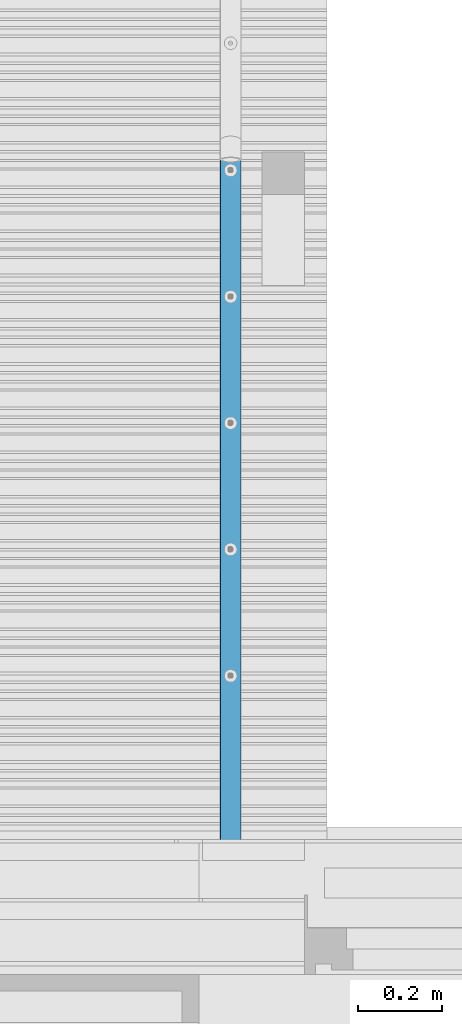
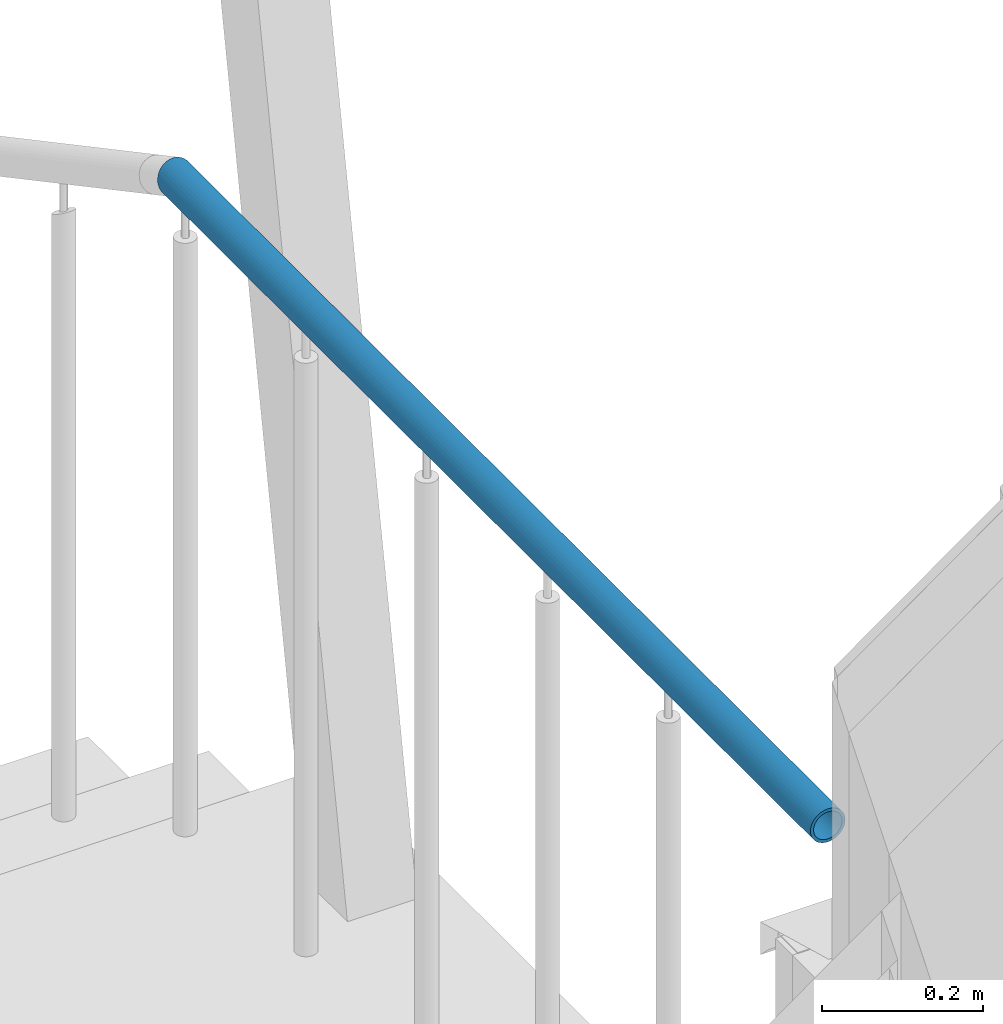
# One storey, part 122 of 418: 1 building element part, 2 elements without a shape of their own.
"""IFC2X3 building model written with IfcOpenShell, lengths in millimetres."""

from ifc_helpers import new_model, entity, si_unit, converted_unit, derived_unit, money_unit, direction, frame, origin_with_axes, place, context, subcontext, project, spatial, faceted_brep, material, type_object, element, aggregate, save


model = new_model("IFC2X3")

# Units and contexts
model_context = context("Model", 3, precision=0.01, world=origin_with_axes(), true_north=direction((0.0, 1.0)))
body_context = subcontext(model_context, "Body", "Model", "MODEL_VIEW")
ifc_project = project(units=[si_unit("LENGTHUNIT", "METRE", prefix="MILLI"), si_unit("AREAUNIT", "SQUARE_METRE"), si_unit("VOLUMEUNIT", "CUBIC_METRE"), converted_unit("PLANEANGLEUNIT", "DEGREE", entity("IfcPlaneAngleMeasure", 0.0174532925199), si_unit("PLANEANGLEUNIT", "RADIAN"), dimensions=[0, 0, 0, 0, 0, 0, 0]), si_unit("SOLIDANGLEUNIT", "STERADIAN"), money_unit("EUR"), converted_unit("TIMEUNIT", "Year", entity("IfcTimeMeasure", 31556926.0), si_unit("TIMEUNIT", "SECOND"), dimensions=[0, 0, 1, 0, 0, 0, 0]), si_unit("MASSUNIT", "GRAM", prefix="KILO"), si_unit("THERMODYNAMICTEMPERATUREUNIT", "DEGREE_CELSIUS"), si_unit("LUMINOUSINTENSITYUNIT", "LUMEN"), si_unit("ENERGYUNIT", "JOULE", prefix="MEGA"), derived_unit("THERMALCONDUCTANCEUNIT", [(si_unit("POWERUNIT", "WATT"), 1), (si_unit("LENGTHUNIT", "METRE"), -1), (si_unit("THERMODYNAMICTEMPERATUREUNIT", "KELVIN"), -1)]), derived_unit("SPECIFICHEATCAPACITYUNIT", [(si_unit("ENERGYUNIT", "JOULE"), 1), (si_unit("MASSUNIT", "GRAM", prefix="KILO"), -1), (si_unit("THERMODYNAMICTEMPERATUREUNIT", "KELVIN"), -1)]), derived_unit("MASSDENSITYUNIT", [(si_unit("MASSUNIT", "GRAM", prefix="KILO"), 1), (si_unit("VOLUMEUNIT", "CUBIC_METRE"), -1)])], contexts=[model_context])

# Site, building, storey
site_placement = place(None, origin_with_axes())
site = spatial("IfcSite", under=ifc_project, at=site_placement, Name="Paldiski mnt 245/1, Tallinn, Harjumaa", CompositionType="COMPLEX")
building_placement = place(site_placement, origin_with_axes())
building = spatial("IfcBuilding", under=site, at=building_placement, Name="RKAS Hoone üldnimetus (kasutust iseloomustav) -> IFC Project Manager -> SOLIBRI", CompositionType="ELEMENT")
storey_placement = place(building_placement, origin_with_axes())
storey = spatial("IfcBuildingStorey", under=building, at=storey_placement, Name="Esimene korrus", CompositionType="ELEMENT", Elevation=0.0)

# Proxies, building element part
building_element_proxy_type_1 = type_object("IfcBuildingElementProxyType", Name="Railing Type", PredefinedType="NOTDEFINED")
proxy_1_placement = place(storey_placement, frame((-36811.0, 460.000000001, -500.846302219), z_axis=(0.0, 0.0, 1.0), x_axis=(1.0, 0.0, 0.0)))
proxy_1 = element("IfcBuildingElementProxy", 1, at=proxy_1_placement, inside=storey, type_object=building_element_proxy_type_1, Name="Trepipiire")
building_element_proxy_type_2 = type_object("IfcBuildingElementProxyType", Name="IfcBuildingElementProxy", PredefinedType="NOTDEFINED")
proxy_2_placement = place(proxy_1_placement, frame((0.0, 855.900250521, 1424.94460278), z_axis=(0.0, 0.0, 1.0), x_axis=(1.0, 0.0, 0.0)))
proxy_2 = element("IfcBuildingElementProxy", 2, at=proxy_2_placement, type_object=building_element_proxy_type_2, Name="ÜL PIIRE - 001")
aggregate(proxy_1, [proxy_2])
ifc_material = material(Name="RAL7016")
building_element_part_placement = place(proxy_2_placement, origin_with_axes())
building_element_part = element("IfcBuildingElementPart", 3, at=building_element_part_placement, material=ifc_material, Name="RAL7016", context=body_context, shape_type="Brep", body=[
    faceted_brep([(-25.0, -813.900250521, 30.9016994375), (-24.6201938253, -813.900250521, 35.2429038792), (-24.6201938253, 808.728738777, 35.2429038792), (-25.0, 807.642006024, 30.9016994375), (-24.6201938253, -813.900250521, 26.5604949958), (-23.4923155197, -813.900250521, 22.3511958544), (-21.6506350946, -813.900250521, 18.4016994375), (-19.151111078, -813.900250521, 14.8320091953), (-16.0696902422, -813.900250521, 11.7505883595), (-12.5, -813.900250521, 9.25106434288), (-8.55050358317, -813.900250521, 7.40938391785), (-4.3412044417, -813.900250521, 6.28150561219), (0.0, -813.900250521, 5.90169943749), (4.34120444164, -813.900250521, 6.28150561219), (8.55050358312, -813.900250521, 7.40938391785), (12.5, -813.900250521, 9.25106434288), (16.0696902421, -813.900250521, 11.7505883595), (19.1511110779, -813.900250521, 14.8320091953), (21.6506350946, -813.900250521, 18.4016994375), (23.4923155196, -813.900250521, 22.3511958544), (24.6201938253, -813.900250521, 26.5604949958), (25.0, -813.900250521, 30.9016994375), (24.6201938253, -813.900250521, 35.2429038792), (23.4923155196, -813.900250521, 39.4522030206), (21.6506350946, -813.900250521, 43.4016994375), (19.1511110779, -813.900250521, 46.9713896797), (16.0696902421, -813.900250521, 50.0528105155), (12.5, -813.900250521, 52.5523345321), (8.55050358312, -813.900250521, 54.3940149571), (4.34120444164, -813.900250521, 55.5218932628), (0.0, -813.900250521, 55.9016994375), (-4.3412044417, -813.900250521, 55.5218932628), (-8.55050358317, -813.900250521, 54.3940149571), (-12.5, -813.900250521, 52.5523345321), (-16.0696902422, -813.900250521, 50.0528105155), (-19.151111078, -813.900250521, 46.9713896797), (-21.6506350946, -813.900250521, 43.4016994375), (-23.4923155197, -813.900250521, 39.4522030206), (-20.5, -813.900250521, 30.9016994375), (-20.1885589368, -813.900250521, 34.4614870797), (-19.2636987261, -813.900250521, 37.9131123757), (-17.7535207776, -813.900250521, 41.1516994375), (-15.703911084, -813.900250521, 44.0788454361), (-13.1771459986, -813.900250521, 46.6056105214), (-10.25, -813.900250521, 48.6552202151), (-7.0114129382, -813.900250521, 50.1653981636), (-3.5597876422, -813.900250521, 51.0902583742), (0.0, -813.900250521, 51.4016994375), (3.55978764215, -813.900250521, 51.0902583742), (7.01141293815, -813.900250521, 50.1653981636), (10.25, -813.900250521, 48.6552202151), (13.1771459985, -813.900250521, 46.6056105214), (15.7039110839, -813.900250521, 44.0788454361), (17.7535207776, -813.900250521, 41.1516994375), (19.2636987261, -813.900250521, 37.9131123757), (20.1885589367, -813.900250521, 34.4614870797), (20.5, -813.900250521, 30.9016994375), (20.1885589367, -813.900250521, 27.3419117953), (19.2636987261, -813.900250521, 23.8902864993), (17.7535207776, -813.900250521, 20.6516994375), (15.7039110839, -813.900250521, 17.7245534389), (13.1771459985, -813.900250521, 15.1977883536), (10.25, -813.900250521, 13.1481786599), (7.01141293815, -813.900250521, 11.6380007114), (3.55978764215, -813.900250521, 10.7131405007), (0.0, -813.900250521, 10.4016994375), (-3.5597876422, -813.900250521, 10.7131405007), (-7.0114129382, -813.900250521, 11.6380007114), (-10.25, -813.900250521, 13.1481786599), (-13.1771459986, -813.900250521, 15.1977883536), (-15.703911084, -813.900250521, 17.7245534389), (-17.7535207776, -813.900250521, 20.6516994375), (-19.2636987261, -813.900250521, 23.8902864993), (-20.1885589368, -813.900250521, 27.3419117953), (-23.4923155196, 809.782451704, 39.4522030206), (-21.6506350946, 810.771128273, 43.4016994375), (-19.1511110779, 811.664728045, 46.9713896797), (-16.0696902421, 812.436099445, 50.0528105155), (-12.5, 813.061804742, 52.5523345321), (-8.55050358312, 813.522832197, 54.3940149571), (-4.34120444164, 813.805173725, 55.5218932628), (0.0, 813.900250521, 55.9016994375), (4.3412044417, 813.805173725, 55.5218932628), (8.55050358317, 813.522832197, 54.3940149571), (12.5, 813.061804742, 52.5523345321), (16.0696902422, 812.436099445, 50.0528105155), (19.151111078, 811.664728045, 46.9713896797), (21.6506350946, 810.771128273, 43.4016994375), (23.4923155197, 809.782451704, 39.4522030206), (24.6201938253, 808.728738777, 35.2429038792), (25.0, 807.642006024, 30.9016994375), (24.6201938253, 806.555273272, 26.5604949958), (23.4923155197, 805.501560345, 22.3511958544), (21.6506350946, 804.512883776, 18.4016994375), (19.151111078, 803.619284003, 14.8320091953), (16.0696902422, 802.847912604, 11.7505883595), (12.5, 802.222207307, 9.25106434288), (8.55050358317, 801.761179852, 7.40938391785), (4.3412044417, 801.478838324, 6.28150561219), (0.0, 801.383761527, 5.90169943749), (-4.34120444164, 801.478838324, 6.28150561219), (-8.55050358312, 801.761179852, 7.40938391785), (-12.5, 802.222207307, 9.25106434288), (-16.0696902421, 802.847912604, 11.7505883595), (-19.1511110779, 803.619284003, 14.8320091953), (-21.6506350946, 804.512883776, 18.4016994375), (-23.4923155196, 805.501560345, 22.3511958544), (-24.6201938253, 806.555273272, 26.5604949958), (-20.5, 807.642006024, 30.9016994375), (-20.1885589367, 806.750885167, 27.3419117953), (-19.2636987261, 805.886840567, 23.8902864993), (-17.7535207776, 805.076125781, 20.6516994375), (-15.7039110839, 804.343373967, 17.7245534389), (-13.1771459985, 803.71084942, 15.1977883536), (-10.25, 803.197771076, 13.1481786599), (-7.01141293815, 802.819728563, 11.6380007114), (-3.55978764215, 802.58820851, 10.7131405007), (0.0, 802.510245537, 10.4016994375), (3.5597876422, 802.58820851, 10.7131405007), (7.0114129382, 802.819728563, 11.6380007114), (10.25, 803.197771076, 13.1481786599), (13.1771459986, 803.71084942, 15.1977883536), (15.703911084, 804.343373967, 17.7245534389), (17.7535207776, 805.076125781, 20.6516994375), (19.2636987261, 805.886840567, 23.8902864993), (20.1885589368, 806.750885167, 27.3419117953), (20.5, 807.642006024, 30.9016994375), (20.1885589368, 808.533126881, 34.4614870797), (19.2636987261, 809.397171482, 37.9131123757), (17.7535207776, 810.207886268, 41.1516994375), (15.703911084, 810.940638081, 44.0788454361), (13.1771459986, 811.573162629, 46.6056105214), (10.25, 812.086240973, 48.6552202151), (7.0114129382, 812.464283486, 50.1653981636), (3.5597876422, 812.695803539, 51.0902583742), (0.0, 812.773766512, 51.4016994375), (-3.55978764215, 812.695803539, 51.0902583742), (-7.01141293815, 812.464283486, 50.1653981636), (-10.25, 812.086240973, 48.6552202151), (-13.1771459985, 811.573162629, 46.6056105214), (-15.7039110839, 810.940638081, 44.0788454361), (-17.7535207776, 810.207886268, 41.1516994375), (-19.2636987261, 809.397171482, 37.9131123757), (-20.1885589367, 808.533126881, 34.4614870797)], [[[0, 1, 2, 3]], [[0, 4, 5, 6, 7, 8, 9, 10, 11, 12, 13, 14, 15, 16, 17, 18, 19, 20, 21, 22, 23, 24, 25, 26, 27, 28, 29, 30, 31, 32, 33, 34, 35, 36, 37, 1], [38, 39, 40, 41, 42, 43, 44, 45, 46, 47, 48, 49, 50, 51, 52, 53, 54, 55, 56, 57, 58, 59, 60, 61, 62, 63, 64, 65, 66, 67, 68, 69, 70, 71, 72, 73]], [[1, 37, 74, 2]], [[3, 2, 74, 75, 76, 77, 78, 79, 80, 81, 82, 83, 84, 85, 86, 87, 88, 89, 90, 91, 92, 93, 94, 95, 96, 97, 98, 99, 100, 101, 102, 103, 104, 105, 106, 107], [108, 109, 110, 111, 112, 113, 114, 115, 116, 117, 118, 119, 120, 121, 122, 123, 124, 125, 126, 127, 128, 129, 130, 131, 132, 133, 134, 135, 136, 137, 138, 139, 140, 141, 142, 143]], [[4, 0, 3, 107]], [[5, 4, 107, 106]], [[6, 5, 106, 105]], [[7, 6, 105, 104]], [[8, 7, 104, 103]], [[9, 8, 103, 102]], [[10, 9, 102, 101]], [[11, 10, 101, 100]], [[12, 11, 100, 99]], [[13, 12, 99, 98]], [[14, 13, 98, 97]], [[15, 14, 97, 96]], [[16, 15, 96, 95]], [[17, 16, 95, 94]], [[18, 17, 94, 93]], [[19, 18, 93, 92]], [[20, 19, 92, 91]], [[21, 20, 91, 90]], [[22, 21, 90, 89]], [[23, 22, 89, 88]], [[24, 23, 88, 87]], [[25, 24, 87, 86]], [[26, 25, 86, 85]], [[27, 26, 85, 84]], [[28, 27, 84, 83]], [[29, 28, 83, 82]], [[30, 29, 82, 81]], [[31, 30, 81, 80]], [[32, 31, 80, 79]], [[33, 32, 79, 78]], [[34, 33, 78, 77]], [[35, 34, 77, 76]], [[36, 35, 76, 75]], [[37, 36, 75, 74]], [[39, 38, 108, 143]], [[40, 39, 143, 142]], [[41, 40, 142, 141]], [[42, 41, 141, 140]], [[43, 42, 140, 139]], [[44, 43, 139, 138]], [[45, 44, 138, 137]], [[46, 45, 137, 136]], [[47, 46, 136, 135]], [[48, 47, 135, 134]], [[49, 48, 134, 133]], [[50, 49, 133, 132]], [[51, 50, 132, 131]], [[52, 51, 131, 130]], [[53, 52, 130, 129]], [[54, 53, 129, 128]], [[55, 54, 128, 127]], [[56, 55, 127, 126]], [[57, 56, 126, 125]], [[58, 57, 125, 124]], [[59, 58, 124, 123]], [[60, 59, 123, 122]], [[61, 60, 122, 121]], [[62, 61, 121, 120]], [[63, 62, 120, 119]], [[64, 63, 119, 118]], [[65, 64, 118, 117]], [[66, 65, 117, 116]], [[67, 66, 116, 115]], [[68, 67, 115, 114]], [[69, 68, 114, 113]], [[70, 69, 113, 112]], [[71, 70, 112, 111]], [[72, 71, 111, 110]], [[73, 72, 110, 109]], [[38, 73, 109, 108]]]),
])
aggregate(proxy_2, [building_element_part])

save(model, "model.ifc")
